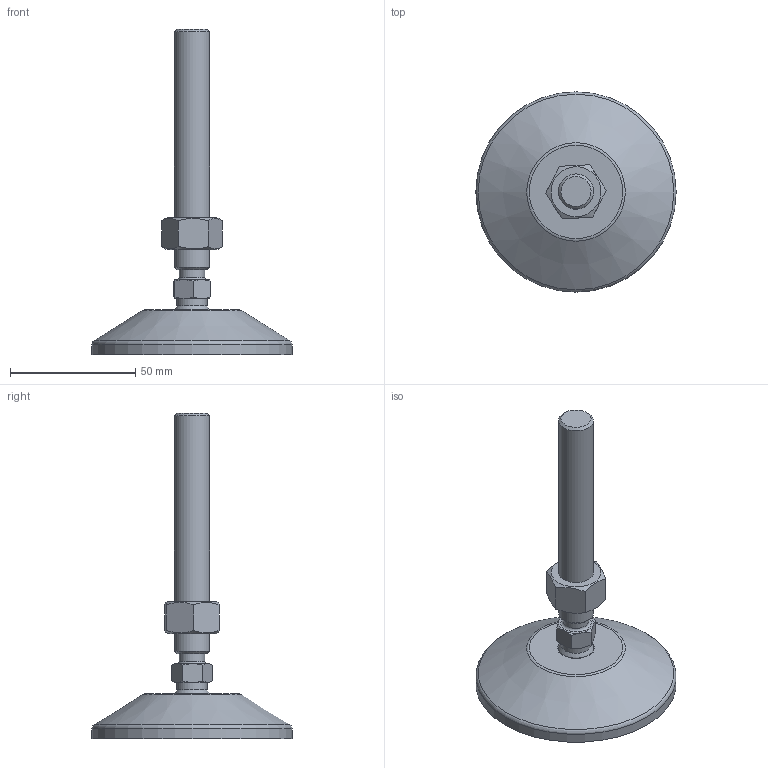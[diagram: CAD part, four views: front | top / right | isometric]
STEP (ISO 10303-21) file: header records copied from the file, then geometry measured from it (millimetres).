
FILE_DESCRIPTION(('STEP AP203'), '1');
FILE_NAME('栖闉罻', '', ('UNSPECIFIED'), ('UNSPECIFIED'), 'C3D Converter', 'C3D Toolkit', '');
FILE_SCHEMA(('CONFIG_CONTROL_DESIGN'));
Length unit declared in the file: millimetre
Products named in the file (4): A00020.114100; A00015.1080
Assembly tree (3 placements, depth 3):
  (unnamed)
    A00020.114100
      (unnamed)
    A00015.1080
Bounding box: 80 x 80 x 129.97 mm (x, y, z)
Volume: 57392.7 mm3; surface area: 24040.1 mm2
Topology: 3 solids, 3 shells, 191 faces, 476 edges, 313 vertices
Faces by surface type: plane 96, cylinder 58, cone 21, torus 14, sphere 2
Full cylindrical faces by diameter (mm): 4 x8, 10.2 x1, 11.835 x1, 12 x1, 14 x1, 14.3 x1, 15 x2, 15.5 x1, 69.3 x1, 80 x1
Entity records: 9645 total; most frequent: CARTESIAN_POINT 3455, DIRECTION 942, ORIENTED_EDGE 880, EDGE_CURVE 440, AXIS2_PLACEMENT_3D 377, VERTEX_POINT 312, EDGE_LOOP 250, FACE_BOUND 207
